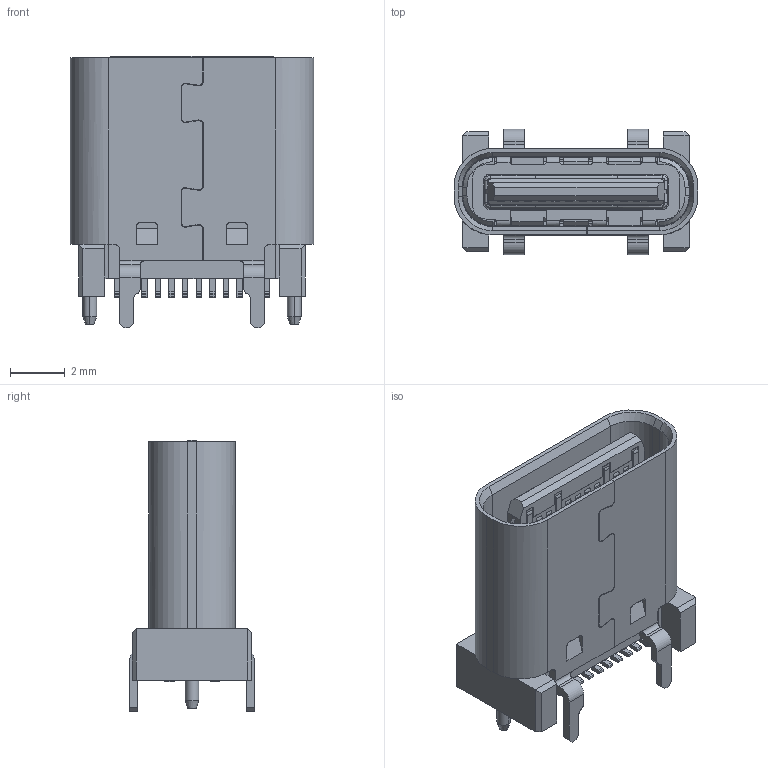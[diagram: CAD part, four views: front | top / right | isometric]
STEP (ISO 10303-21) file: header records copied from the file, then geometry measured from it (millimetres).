
FILE_DESCRIPTION((''),'2;1');
FILE_NAME('A_TC_FBL2038_H_8_8','2025-12-18T',('PMT1 SFT'),(''),'PRO/ENGINEER BY PARAMETRIC TECHNOLOGY CORPORATION, 2011490','PRO/ENGINEER BY PARAMETRIC TECHNOLOGY CORPORATION, 2011490','');
FILE_SCHEMA(('CONFIG_CONTROL_DESIGN'));
Length unit declared in the file: millimetre
Products named in the file (1): A_TC_FBL2038_H_8_8
Bounding box: 8.94 x 4.6 x 9.95 mm (x, y, z)
Volume: 150.4 mm3; surface area: 693.9 mm2
Topology: 1 solids, 8 shells, 1201 faces, 3424 edges, 2258 vertices
Faces by surface type: plane 885, cylinder 280, cone 20, torus 12, bspline 4
Entity records: 39317 total; most frequent: CARTESIAN_POINT 7637, ORIENTED_EDGE 6844, DIRECTION 6294, EDGE_CURVE 3424, VECTOR 2670, LINE 2670, VERTEX_POINT 2258, AXIS2_PLACEMENT_3D 1812
